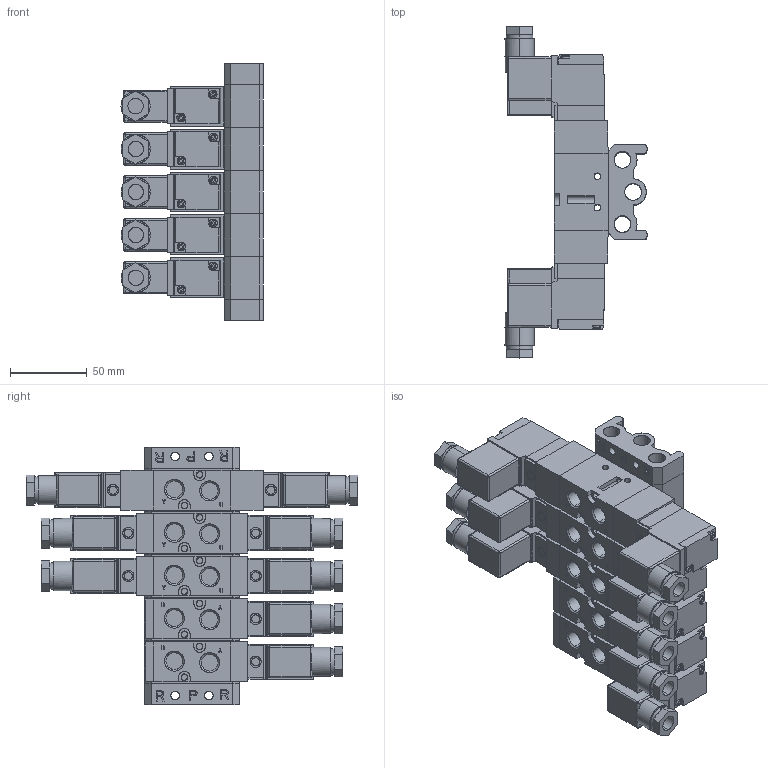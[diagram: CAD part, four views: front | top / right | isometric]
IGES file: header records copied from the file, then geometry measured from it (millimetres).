
Start section: SolidWorks IGES file using analytic representation for surfaces
Global section: file name: C:\Users\Toshiba\Desktop\MFU#-RK20.IGS; native system: SolidWorks 2014; preprocessor: SolidWorks 2014; author: Toshiba; date: 160616.095936; units: millimetre
Bounding box: 92.62 x 216.5 x 168 mm (x, y, z)
Surface area: 270013.4 mm2 (no closed solid volume)
Topology: 0 solids, 0 shells, 3255 faces, 31489 edges, 31489 vertices
Faces by surface type: bspline 2557, revolution 698
